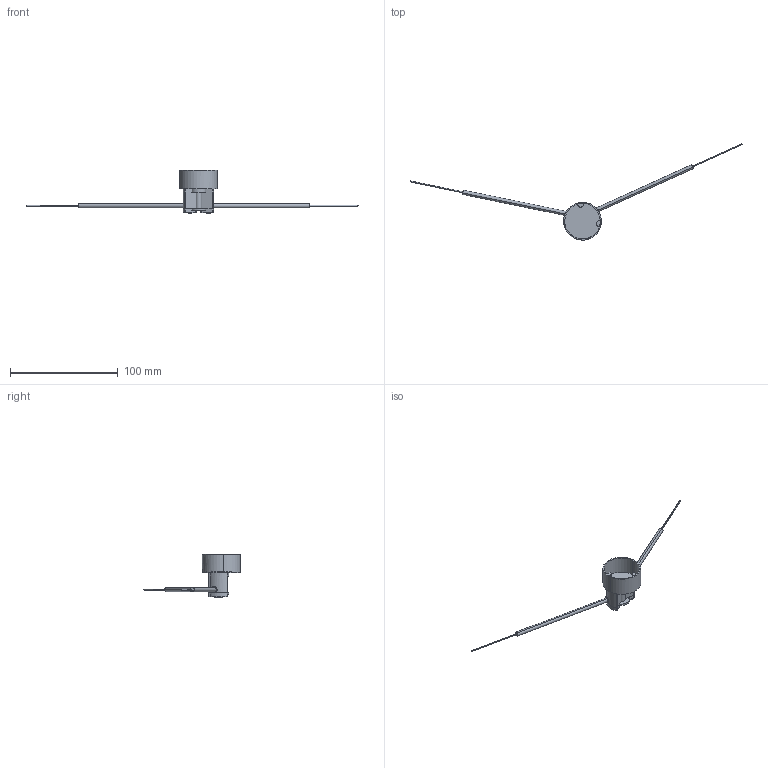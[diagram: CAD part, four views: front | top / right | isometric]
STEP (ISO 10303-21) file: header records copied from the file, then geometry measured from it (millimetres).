
FILE_DESCRIPTION (( 'STEP AP203' ), '1' );
FILE_NAME ('FU-3PRO.STEP', '2016-06-21T00:38:02', ( '' ), ( '' ), 'SwSTEP 2.0', 'SolidWorks 2014', '' );
FILE_SCHEMA (( 'CONFIG_CONTROL_DESIGN' ));
Length unit declared in the file: metre
Products named in the file (8): PROA3S-#-#-#-FU (6); FU-3PRO; PROA3S-#-#-#-FU (7); PROA3S-#-#-#-FU (1); PROA3S-#-#-#-FU (5); PROA3S-#-#-#-FU (4); PROA3S-#-#-#-FU (2); PROA3S-#-#-#-FU (3)
Assembly tree (9 placements, depth 2):
  FU-3PRO
    PROA3S-#-#-#-FU (1)
    PROA3S-#-#-#-FU (2)
    PROA3S-#-#-#-FU (3)  x2
    PROA3S-#-#-#-FU (5)
    PROA3S-#-#-#-FU (6)
    PROA3S-#-#-#-FU (7)
    PROA3S-#-#-#-FU (4)  x2
Bounding box: 307.86 x 89.26 x 40.22 mm (x, y, z)
Volume: 11500.7 mm3; surface area: 12123.9 mm2
Topology: 9 solids, 9 shells, 163 faces, 405 edges, 268 vertices
Faces by surface type: plane 82, cylinder 77, bspline 4
Entity records: 5297 total; most frequent: CARTESIAN_POINT 942, DIRECTION 773, ORIENTED_EDGE 706, EDGE_CURVE 353, AXIS2_PLACEMENT_3D 293, VERTEX_POINT 234, LINE 187, VECTOR 187
